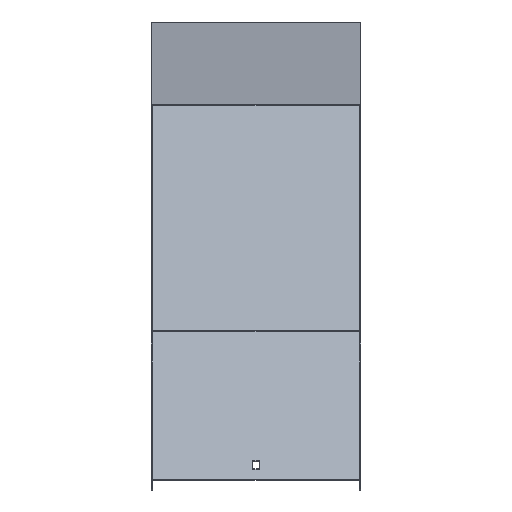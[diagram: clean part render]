
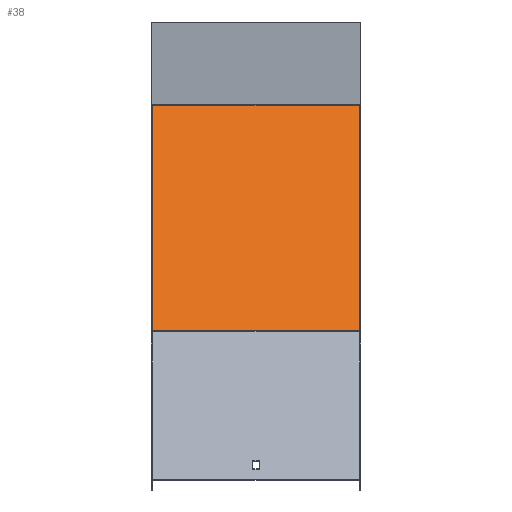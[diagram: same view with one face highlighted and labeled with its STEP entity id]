
A CAD part, top view. The second image highlights one B-rep face of the part: STEP entity #38.
In plain terms, the highlighted planar face has unit normal (0, 0.707, 0.707).
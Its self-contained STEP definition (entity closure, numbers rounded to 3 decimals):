
#13 = LINE ( 'NONE', #558, #926 ) ;
#32 = EDGE_CURVE ( 'NONE', #231, #445, #683, .T. ) ;
#38 = ADVANCED_FACE ( 'NONE', ( #920 ), #534, .F. ) ;
#44 = AXIS2_PLACEMENT_3D ( 'NONE', #469, #147, #383 ) ;
#51 = DIRECTION ( 'NONE',  ( -1., 0., 0. ) ) ;
#70 = ORIENTED_EDGE ( 'NONE', *, *, #244, .F. ) ;
#132 = VECTOR ( 'NONE', #51, 1000. ) ;
#147 = DIRECTION ( 'NONE',  ( 0., -0.707, -0.707 ) ) ;
#160 = DIRECTION ( 'NONE',  ( 0., -0.707, 0.707 ) ) ;
#178 = ORIENTED_EDGE ( 'NONE', *, *, #32, .F. ) ;
#231 = VERTEX_POINT ( 'NONE', #919 ) ;
#244 = EDGE_CURVE ( 'NONE', #659, #231, #530, .T. ) ;
#300 = EDGE_LOOP ( 'NONE', ( #838, #178, #70, #347 ) ) ;
#307 = EDGE_CURVE ( 'NONE', #329, #445, #13, .T. ) ;
#329 = VERTEX_POINT ( 'NONE', #704 ) ;
#347 = ORIENTED_EDGE ( 'NONE', *, *, #397, .T. ) ;
#383 = DIRECTION ( 'NONE',  ( 0., 0.707, -0.707 ) ) ;
#390 = VECTOR ( 'NONE', #160, 1000. ) ;
#396 = CARTESIAN_POINT ( 'NONE',  ( 101.5, -60.491, 467.028 ) ) ;
#397 = EDGE_CURVE ( 'NONE', #659, #329, #815, .T. ) ;
#445 = VERTEX_POINT ( 'NONE', #652 ) ;
#469 = CARTESIAN_POINT ( 'NONE',  ( 101.5, -64.28, 470.818 ) ) ;
#530 = LINE ( 'NONE', #844, #390 ) ;
#534 = PLANE ( 'NONE',  #44 ) ;
#553 = CARTESIAN_POINT ( 'NONE',  ( 101.5, -280.395, 686.933 ) ) ;
#558 = CARTESIAN_POINT ( 'NONE',  ( -101.5, -64.28, 470.818 ) ) ;
#567 = DIRECTION ( 'NONE',  ( 0., -0.707, 0.707 ) ) ;
#606 = DIRECTION ( 'NONE',  ( -1., 0., 0. ) ) ;
#614 = VECTOR ( 'NONE', #606, 1000. ) ;
#652 = CARTESIAN_POINT ( 'NONE',  ( -101.5, -280.395, 686.933 ) ) ;
#659 = VERTEX_POINT ( 'NONE', #396 ) ;
#683 = LINE ( 'NONE', #553, #614 ) ;
#704 = CARTESIAN_POINT ( 'NONE',  ( -101.5, -60.491, 467.028 ) ) ;
#734 = CARTESIAN_POINT ( 'NONE',  ( 101.5, -60.491, 467.028 ) ) ;
#815 = LINE ( 'NONE', #734, #132 ) ;
#838 = ORIENTED_EDGE ( 'NONE', *, *, #307, .T. ) ;
#844 = CARTESIAN_POINT ( 'NONE',  ( 101.5, -64.28, 470.818 ) ) ;
#919 = CARTESIAN_POINT ( 'NONE',  ( 101.5, -280.395, 686.933 ) ) ;
#920 = FACE_OUTER_BOUND ( 'NONE', #300, .T. ) ;
#926 = VECTOR ( 'NONE', #567, 1000. ) ;
